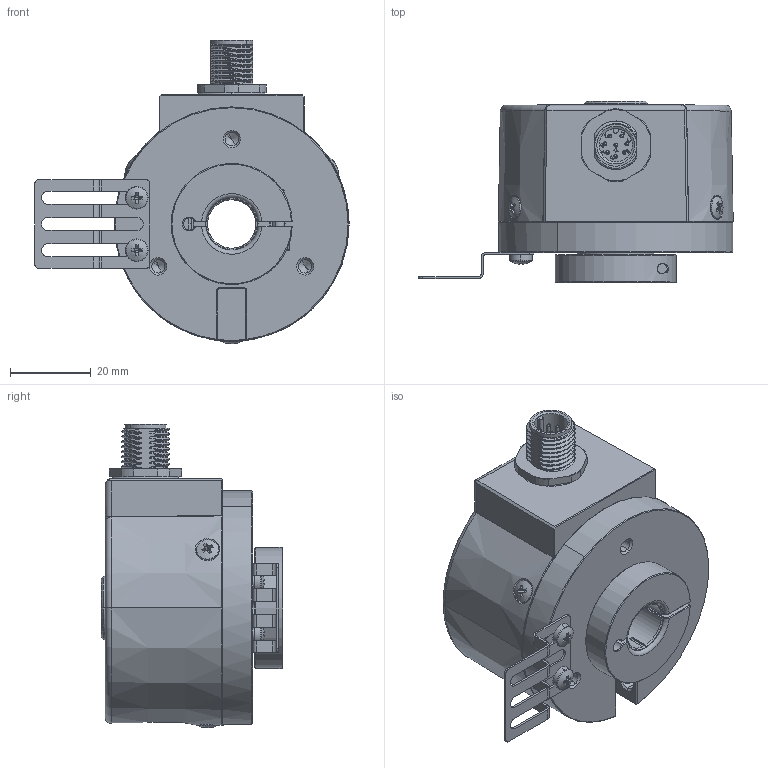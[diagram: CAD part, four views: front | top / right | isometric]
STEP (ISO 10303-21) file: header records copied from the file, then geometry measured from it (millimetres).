
FILE_DESCRIPTION (( 'STEP AP214' ), '1' );
FILE_NAME ('BSP2M7xTx.STEP', '2024-11-22T07:49:20', ( '' ), ( '' ), 'SwSTEP 2.0', 'SolidWorks 2019', '' );
FILE_SCHEMA (( 'AUTOMOTIVE_DESIGN' ));
Length unit declared in the file: millimetre
Products named in the file (1): BSP2M7xTx
Bounding box: 77.82 x 45 x 75.16 mm (x, y, z)
Volume: 61404.8 mm3; surface area: 36444.4 mm2
Topology: 2 solids, 22 shells, 1259 faces, 3023 edges, 1851 vertices
Faces by surface type: plane 330, cylinder 293, cone 252, bspline 189, sphere 176, torus 19
Entity records: 78410 total; most frequent: CARTESIAN_POINT 37351, ORIENTED_EDGE 5882, DIRECTION 5301, EDGE_CURVE 2941, AXIS2_PLACEMENT_3D 2155, VERTEX_POINT 1835, EDGE_LOOP 1432, UNCERTAINTY_MEASURE_WITH_UNIT 1263
